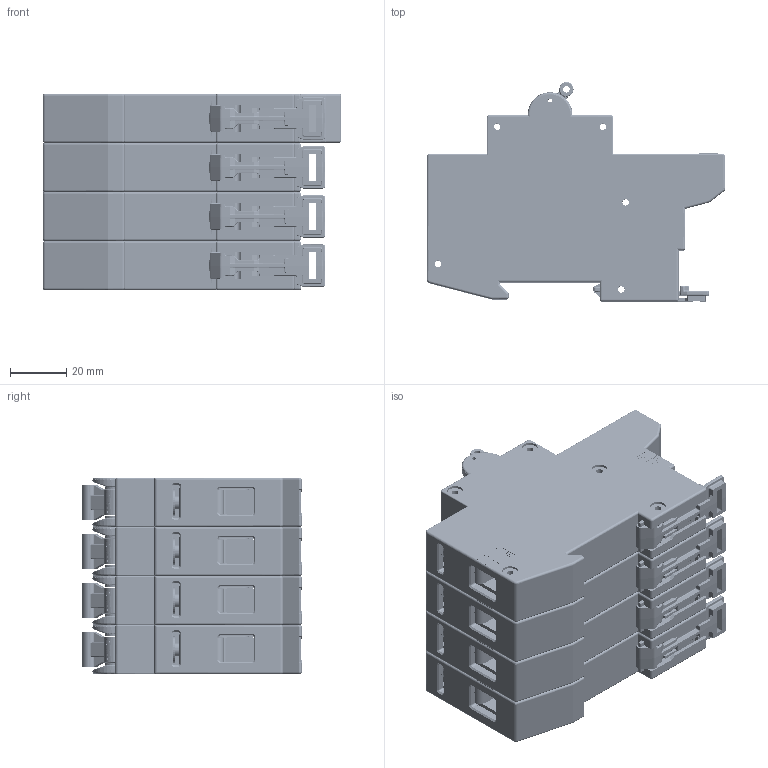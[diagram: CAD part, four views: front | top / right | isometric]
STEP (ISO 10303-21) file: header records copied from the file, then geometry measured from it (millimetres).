
FILE_DESCRIPTION((''),'2;1');
FILE_NAME('2012-3P_WRP','2009-02-09T',('jianzhuanlin'),(''),'PRO/ENGINEER BY PARAMETRIC TECHNOLOGY CORPORATION, 2008010','PRO/ENGINEER BY PARAMETRIC TECHNOLOGY CORPORATION, 2008010','');
FILE_SCHEMA(('CONFIG_CONTROL_DESIGN'));
Products named in the file (1): 2012-3P_WRP
Bounding box: 106.38 x 78.17 x 69.9 mm (x, y, z)
Surface area: 138375.2 mm2 (no closed solid volume)
Topology: 0 solids, 184 shells, 8012 faces, 25430 edges, 17372 vertices
Faces by surface type: plane 4468, cylinder 2387, bspline 432, torus 378, cone 199, sphere 136, extrusion 12
Entity records: 301435 total; most frequent: CARTESIAN_POINT 81752, ORIENTED_EDGE 44275, DIRECTION 43704, EDGE_CURVE 25430, VECTOR 17804, LINE 17792, VERTEX_POINT 17372, AXIS2_PLACEMENT_3D 12950
